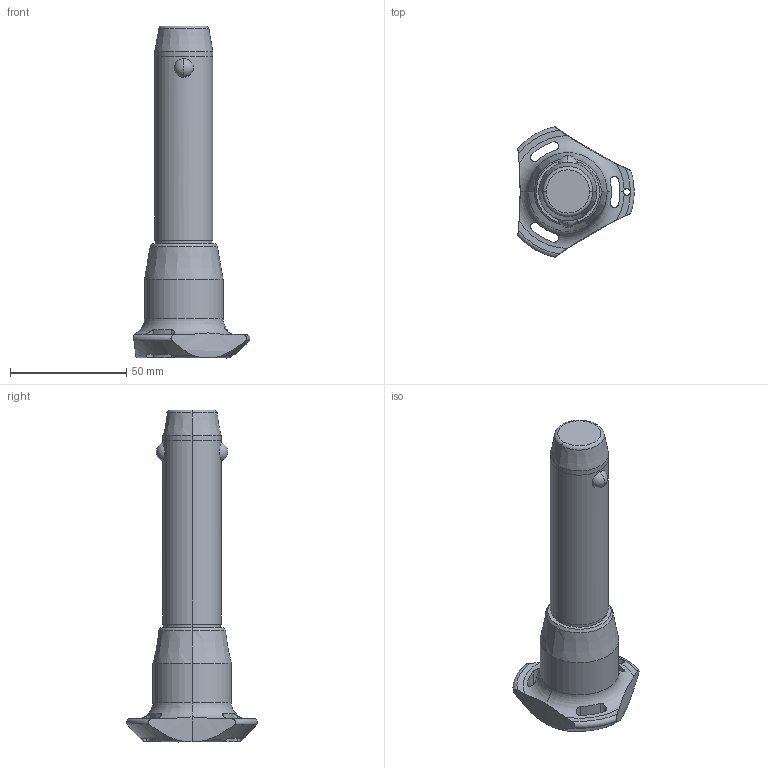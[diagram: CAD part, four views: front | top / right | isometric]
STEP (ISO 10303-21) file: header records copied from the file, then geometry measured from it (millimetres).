
FILE_DESCRIPTION (( 'STEP AP203' ), '1' );
FILE_NAME ('QR1736.M25-070-T.step', '2025-11-13T12:15:23', ( '' ), ( '' ), 'SwSTEP 2.0', 'SolidWorks 2019', '' );
FILE_SCHEMA (( 'CONFIG_CONTROL_DESIGN' ));
Length unit declared in the file: millimetre
Products named in the file (1): QR1736.M25-070-T
Bounding box: 50.04 x 56.02 x 142.7 mm (x, y, z)
Volume: 92813 mm3; surface area: 16947.6 mm2
Topology: 1 solids, 1 shells, 68 faces, 182 edges, 115 vertices
Faces by surface type: cylinder 32, cone 14, torus 11, sphere 6, plane 5
Entity records: 2938 total; most frequent: CARTESIAN_POINT 1192, ORIENTED_EDGE 364, DIRECTION 345, EDGE_CURVE 182, AXIS2_PLACEMENT_3D 154, VERTEX_POINT 115, CIRCLE 85, EDGE_LOOP 75
